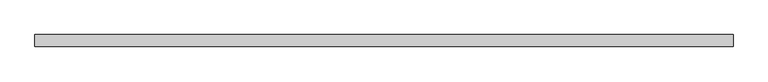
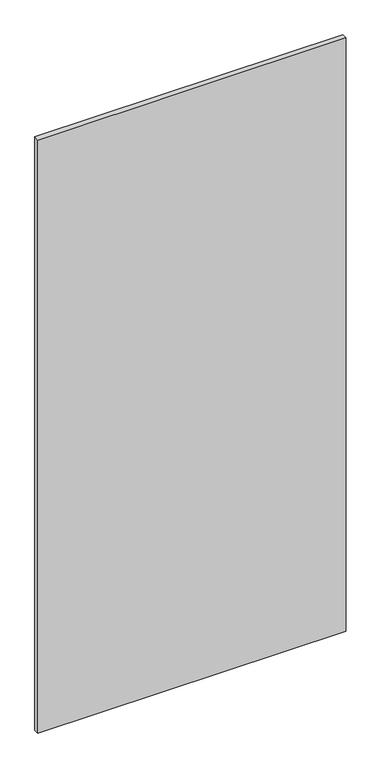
"""IFC4 building model written with IfcOpenShell, lengths in millimetres: plate geometry, Системная панель : С остеклением."""

from ifc_helpers import new_model, si_unit, origin, origin_with_axes, place, context, project, spatial, polyline, outline, extrude, source, transform, mapped, element, save


def plate_9b8abac4(model_context):
    return source(origin(), model_context, "Body", "SweptSolid", [
        extrude(outline(polyline([(725.0, 24.5), (-725.0, 24.5), (-725.0, 49.5), (725.0, 49.5), (725.0, 24.5)])), origin_with_axes(), (0.0, 0.0, 1.0), 2950.0),
    ])


if __name__ == "__main__":
    model = new_model("IFC4")
    model_context = context("Model", 3, world=origin())
    ifc_project = project(units=[si_unit("LENGTHUNIT", "METRE", prefix="MILLI")], contexts=[model_context])
    site = spatial("IfcSite", under=ifc_project)
    building = spatial("IfcBuilding", under=site)
    placement = place(None, origin())
    plate_shape = plate_9b8abac4(model_context)
    element("IfcPlate", 1, ObjectType="Системная панель : С остеклением", at=placement, inside=building, context=model_context, shape_type="MappedRepresentation", body=[
        mapped(plate_shape, transform((0.0, 0.0, 0.0), x_axis=(1.0, 0.0, 0.0), y_axis=(0.0, 1.0, 0.0), z_axis=(0.0, 0.0, 1.0))),
    ])
    save(model, "model.ifc")
